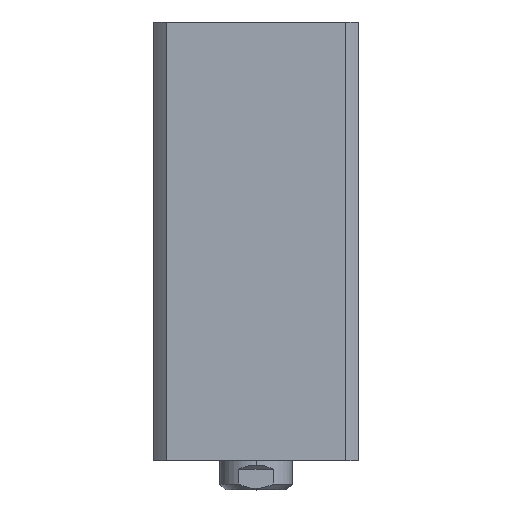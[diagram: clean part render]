
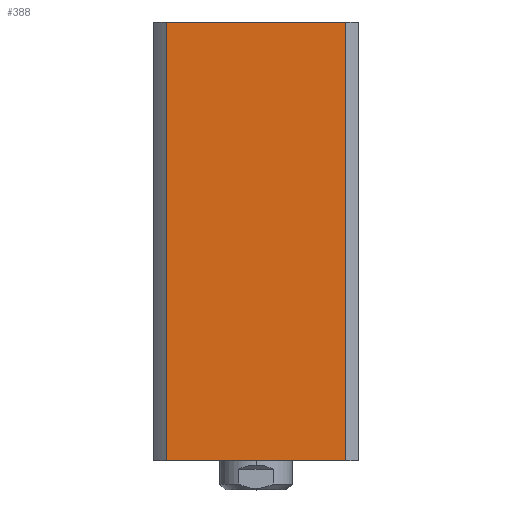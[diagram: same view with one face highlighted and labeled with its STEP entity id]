
A CAD part, top view. The second image highlights one B-rep face of the part: STEP entity #388.
In plain terms, the highlighted planar face has unit normal (0, 0, 1) as drawn and (1, 0, 0) by its records, which use the part's own axes.
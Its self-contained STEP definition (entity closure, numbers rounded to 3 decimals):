
#130 = VERTEX_POINT ( 'NONE', #9661 ) ;
#174 = ORIENTED_EDGE ( 'NONE', *, *, #2481, .F. ) ;
#293 = EDGE_CURVE ( 'NONE', #130, #9516, #1794, .T. ) ;
#388 = ADVANCED_FACE ( 'NONE', ( #5470 ), #4400, .F. ) ;
#576 = CARTESIAN_POINT ( 'NONE',  ( 35., -30.615, 300. ) ) ;
#658 = CARTESIAN_POINT ( 'NONE',  ( 35., 30.615, 0. ) ) ;
#1114 = EDGE_CURVE ( 'NONE', #6679, #130, #7154, .T. ) ;
#1794 = LINE ( 'NONE', #4844, #5957 ) ;
#2481 = EDGE_CURVE ( 'NONE', #7056, #6679, #5216, .T. ) ;
#3244 = CARTESIAN_POINT ( 'NONE',  ( 35., 35., 150. ) ) ;
#3801 = ORIENTED_EDGE ( 'NONE', *, *, #1114, .F. ) ;
#4400 = PLANE ( 'NONE',  #5156 ) ;
#4454 = DIRECTION ( 'NONE',  ( 0., 1., 0. ) ) ;
#4486 = DIRECTION ( 'NONE',  ( 0., 0., 1. ) ) ;
#4844 = CARTESIAN_POINT ( 'NONE',  ( 35., 30.615, 300. ) ) ;
#5119 = DIRECTION ( 'NONE',  ( -1., 0., 0. ) ) ;
#5156 = AXIS2_PLACEMENT_3D ( 'NONE', #3244, #5119, #5199 ) ;
#5199 = DIRECTION ( 'NONE',  ( 0., 0., 1. ) ) ;
#5206 = CARTESIAN_POINT ( 'NONE',  ( 35., -30.615, 150. ) ) ;
#5216 = LINE ( 'NONE', #576, #7504 ) ;
#5470 = FACE_OUTER_BOUND ( 'NONE', #9823, .T. ) ;
#5493 = EDGE_CURVE ( 'NONE', #7056, #9516, #8799, .T. ) ;
#5589 = CARTESIAN_POINT ( 'NONE',  ( 35., -30.615, 0. ) ) ;
#5601 = DIRECTION ( 'NONE',  ( 0., 0., -1. ) ) ;
#5957 = VECTOR ( 'NONE', #5601, 1000. ) ;
#6679 = VERTEX_POINT ( 'NONE', #5206 ) ;
#6732 = ORIENTED_EDGE ( 'NONE', *, *, #5493, .T. ) ;
#6753 = VECTOR ( 'NONE', #4454, 1000. ) ;
#6770 = CARTESIAN_POINT ( 'NONE',  ( 35., 35., 0. ) ) ;
#7056 = VERTEX_POINT ( 'NONE', #5589 ) ;
#7154 = LINE ( 'NONE', #9603, #8962 ) ;
#7248 = DIRECTION ( 'NONE',  ( 0., 1., 0. ) ) ;
#7504 = VECTOR ( 'NONE', #4486, 1000. ) ;
#7687 = ORIENTED_EDGE ( 'NONE', *, *, #293, .F. ) ;
#8799 = LINE ( 'NONE', #6770, #6753 ) ;
#8962 = VECTOR ( 'NONE', #7248, 1000. ) ;
#9516 = VERTEX_POINT ( 'NONE', #658 ) ;
#9603 = CARTESIAN_POINT ( 'NONE',  ( 35., 35., 150. ) ) ;
#9661 = CARTESIAN_POINT ( 'NONE',  ( 35., 30.615, 150. ) ) ;
#9823 = EDGE_LOOP ( 'NONE', ( #7687, #3801, #174, #6732 ) ) ;
